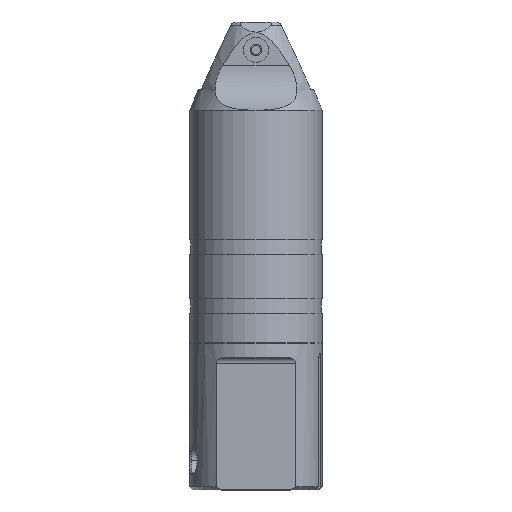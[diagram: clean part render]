
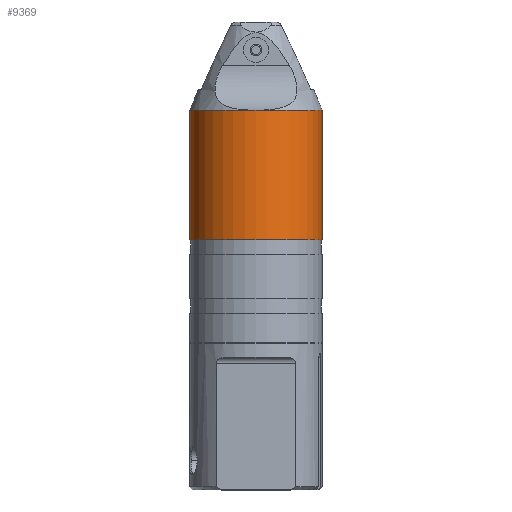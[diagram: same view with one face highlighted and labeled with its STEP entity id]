
A CAD part, top view. The second image highlights one B-rep face of the part: STEP entity #9369.
In plain terms, the highlighted cylindrical face has radius 22.5 mm (diameter 45 mm), a partial arc.
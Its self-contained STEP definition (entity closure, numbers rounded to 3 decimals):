
#20 = FACE_OUTER_BOUND ( 'NONE', #6028, .T. ) ;
#204 = CARTESIAN_POINT ( 'NONE',  ( 9.075, 108.474, 59.317 ) ) ;
#486 = CARTESIAN_POINT ( 'NONE',  ( -13.425, 108.474, 36.817 ) ) ;
#586 = DIRECTION ( 'NONE',  ( 0., 1., 0. ) ) ;
#826 = EDGE_CURVE ( 'NONE', #7890, #2194, #8118, .T. ) ;
#965 = VERTEX_POINT ( 'NONE', #3514 ) ;
#1540 = CIRCLE ( 'NONE', #2781, 22.5 ) ;
#1849 = CARTESIAN_POINT ( 'NONE',  ( 9.075, 108.474, 36.817 ) ) ;
#2194 = VERTEX_POINT ( 'NONE', #204 ) ;
#2248 = AXIS2_PLACEMENT_3D ( 'NONE', #9783, #586, #5152 ) ;
#2509 = LINE ( 'NONE', #4410, #4638 ) ;
#2524 = DIRECTION ( 'NONE',  ( 0., -1., 0. ) ) ;
#2712 = VERTEX_POINT ( 'NONE', #9266 ) ;
#2781 = AXIS2_PLACEMENT_3D ( 'NONE', #6679, #8170, #4329 ) ;
#2896 = DIRECTION ( 'NONE',  ( 0., -1., 0. ) ) ;
#2989 = ORIENTED_EDGE ( 'NONE', *, *, #826, .F. ) ;
#3431 = AXIS2_PLACEMENT_3D ( 'NONE', #6253, #4842, #9453 ) ;
#3514 = CARTESIAN_POINT ( 'NONE',  ( 31.575, 64.474, 36.817 ) ) ;
#3631 = VECTOR ( 'NONE', #2524, 1000. ) ;
#3963 = EDGE_CURVE ( 'NONE', #4277, #965, #4071, .T. ) ;
#3986 = ORIENTED_EDGE ( 'NONE', *, *, #5112, .F. ) ;
#4026 = CARTESIAN_POINT ( 'NONE',  ( -13.425, 64.474, 36.817 ) ) ;
#4030 = EDGE_CURVE ( 'NONE', #2194, #2712, #1540, .T. ) ;
#4071 = CIRCLE ( 'NONE', #2248, 22.5 ) ;
#4277 = VERTEX_POINT ( 'NONE', #4026 ) ;
#4329 = DIRECTION ( 'NONE',  ( 0., 0., 1. ) ) ;
#4410 = CARTESIAN_POINT ( 'NONE',  ( 31.575, 191.4, 36.817 ) ) ;
#4638 = VECTOR ( 'NONE', #2896, 1000. ) ;
#4775 = CARTESIAN_POINT ( 'NONE',  ( -13.425, 191.4, 36.817 ) ) ;
#4817 = LINE ( 'NONE', #4775, #3631 ) ;
#4842 = DIRECTION ( 'NONE',  ( 0., -1., 0. ) ) ;
#5112 = EDGE_CURVE ( 'NONE', #2712, #965, #2509, .T. ) ;
#5130 = ORIENTED_EDGE ( 'NONE', *, *, #3963, .T. ) ;
#5152 = DIRECTION ( 'NONE',  ( -1., 0., 0. ) ) ;
#6028 = EDGE_LOOP ( 'NONE', ( #3986, #7713, #2989, #6119, #5130 ) ) ;
#6119 = ORIENTED_EDGE ( 'NONE', *, *, #9267, .T. ) ;
#6253 = CARTESIAN_POINT ( 'NONE',  ( 9.075, 191.4, 36.817 ) ) ;
#6679 = CARTESIAN_POINT ( 'NONE',  ( 9.075, 108.474, 36.817 ) ) ;
#7169 = DIRECTION ( 'NONE',  ( 0., 0., 1. ) ) ;
#7713 = ORIENTED_EDGE ( 'NONE', *, *, #4030, .F. ) ;
#7890 = VERTEX_POINT ( 'NONE', #486 ) ;
#7957 = AXIS2_PLACEMENT_3D ( 'NONE', #1849, #7984, #7169 ) ;
#7959 = CYLINDRICAL_SURFACE ( 'NONE', #3431, 22.5 ) ;
#7984 = DIRECTION ( 'NONE',  ( 0., 1., 0. ) ) ;
#8118 = CIRCLE ( 'NONE', #7957, 22.5 ) ;
#8170 = DIRECTION ( 'NONE',  ( 0., 1., 0. ) ) ;
#9266 = CARTESIAN_POINT ( 'NONE',  ( 31.575, 108.474, 36.817 ) ) ;
#9267 = EDGE_CURVE ( 'NONE', #7890, #4277, #4817, .T. ) ;
#9369 = ADVANCED_FACE ( 'NONE', ( #20 ), #7959, .T. ) ;
#9453 = DIRECTION ( 'NONE',  ( -1., 0., 0. ) ) ;
#9783 = CARTESIAN_POINT ( 'NONE',  ( 9.075, 64.474, 36.817 ) ) ;
